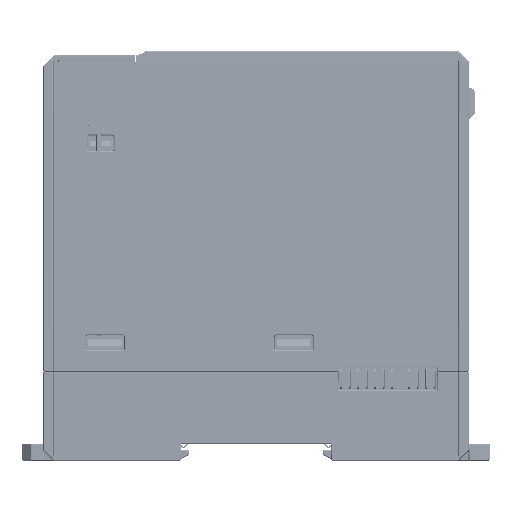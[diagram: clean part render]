
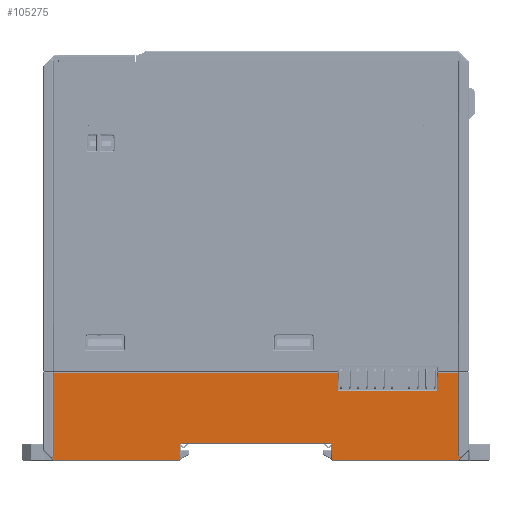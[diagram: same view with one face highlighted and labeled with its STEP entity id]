
A CAD part, left-side view. The second image highlights one B-rep face of the part: STEP entity #105275.
In plain terms, the highlighted planar face has unit normal (-1, 0, 0).
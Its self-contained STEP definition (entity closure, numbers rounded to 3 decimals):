
#84249=CARTESIAN_POINT('',(-11.5,48.45,
1.4));
#84264=DIRECTION('',(0.,0.017,-1.));
#84265=VECTOR('',#84264,4.301);
#84266=CARTESIAN_POINT('',(-11.5,42.751,
-13.797));
#84267=LINE('',#84266,#84265);
#84268=DIRECTION('',(0.,-0.707,0.707));
#84269=VECTOR('',#84268,1.49);
#84270=CARTESIAN_POINT('',(-11.5,48.45,
1.4));
#84271=LINE('',#84270,#84269);
#84272=DIRECTION('',(0.,-0.035,-0.999));
#84273=VECTOR('',#84272,3.52);
#84274=CARTESIAN_POINT('',(-11.5,17.983,
2.453));
#84275=LINE('',#84274,#84273);
#84276=CARTESIAN_POINT('',(-11.5,17.36,
-1.047));
#84277=DIRECTION('',(-1.,0.,0.));
#84278=DIRECTION('',(0.,0.999,-0.035));
#84279=AXIS2_PLACEMENT_3D('',#84276,#84277,#84278);
#84281=CARTESIAN_POINT('',(-11.5,-17.36,
-1.047));
#84282=DIRECTION('',(-1.,0.,0.));
#84283=DIRECTION('',(0.,0.,-1.));
#84284=AXIS2_PLACEMENT_3D('',#84281,#84282,#84283);
#84286=DIRECTION('',(0.,-0.035,0.999));
#84287=VECTOR('',#84286,3.52);
#84288=CARTESIAN_POINT('',(-11.5,-17.86,
-1.064));
#84289=LINE('',#84288,#84287);
#84290=DIRECTION('',(0.,-0.707,-0.707));
#84291=VECTOR('',#84290,1.49);
#84292=CARTESIAN_POINT('',(-11.5,-47.396,
2.453));
#84293=LINE('',#84292,#84291);
#84294=DIRECTION('',(0.,0.017,1.));
#84295=VECTOR('',#84294,4.301);
#84296=CARTESIAN_POINT('',(-11.5,19.174,
-18.097));
#84297=LINE('',#84296,#84295);
#84306=DIRECTION('',(0.,-1.,0.));
#84307=VECTOR('',#84306,23.502);
#84308=CARTESIAN_POINT('',(-11.5,42.751,
-13.797));
#84309=LINE('',#84308,#84307);
#93067=DIRECTION('',(0.,1.,0.));
#93068=VECTOR('',#93067,34.721);
#93069=CARTESIAN_POINT('',(-11.5,-17.36,
-1.547));
#93070=LINE('',#93069,#93068);
#93433=DIRECTION('',(0.,-1.,0.));
#93434=VECTOR('',#93433,67.624);
#93435=CARTESIAN_POINT('',(-11.5,19.174,
-18.097));
#93436=LINE('',#93435,#93434);
#93468=DIRECTION('',(0.,0.,1.));
#93469=VECTOR('',#93468,19.496);
#93470=CARTESIAN_POINT('',(-11.5,-48.45,
-18.097));
#93471=LINE('',#93470,#93469);
#93645=DIRECTION('',(0.,1.,0.));
#93646=VECTOR('',#93645,29.414);
#93647=CARTESIAN_POINT('',(-11.5,-47.396,
2.453));
#93648=LINE('',#93647,#93646);
#94778=DIRECTION('',(0.,1.,0.));
#94779=VECTOR('',#94778,29.414);
#94780=CARTESIAN_POINT('',(-11.5,17.983,
2.453));
#94781=LINE('',#94780,#94779);
#98585=DIRECTION('',(0.,0.,-1.));
#98586=VECTOR('',#98585,19.496);
#98587=CARTESIAN_POINT('',(-11.5,48.45,
1.4));
#98588=LINE('',#98587,#98586);
#98630=DIRECTION('',(0.,-1.,0.));
#98631=VECTOR('',#98630,5.624);
#98632=CARTESIAN_POINT('',(-11.5,48.45,
-18.097));
#98633=LINE('',#98632,#98631);
#100454=VERTEX_POINT('',#84249);
#100455=CARTESIAN_POINT('',(-11.5,47.396,
2.453));
#100456=VERTEX_POINT('',#100455);
#100457=CARTESIAN_POINT('',(-11.5,42.751,
-13.797));
#100458=CARTESIAN_POINT('',(-11.5,42.826,
-18.097));
#100459=VERTEX_POINT('',#100457);
#100460=VERTEX_POINT('',#100458);
#100461=CARTESIAN_POINT('',(-11.5,48.45,
-18.097));
#100462=VERTEX_POINT('',#100461);
#100463=CARTESIAN_POINT('',(-11.5,17.983,
2.453));
#100464=VERTEX_POINT('',#100463);
#100465=CARTESIAN_POINT('',(-11.5,17.86,
-1.064));
#100466=VERTEX_POINT('',#100465);
#100467=CARTESIAN_POINT('',(-11.5,17.36,
-1.547));
#100468=VERTEX_POINT('',#100467);
#100469=CARTESIAN_POINT('',(-11.5,-17.36,
-1.547));
#100470=VERTEX_POINT('',#100469);
#100471=CARTESIAN_POINT('',(-11.5,-17.86,
-1.064));
#100472=VERTEX_POINT('',#100471);
#100473=CARTESIAN_POINT('',(-11.5,-17.983,
2.453));
#100474=VERTEX_POINT('',#100473);
#100475=CARTESIAN_POINT('',(-11.5,-47.396,
2.453));
#100476=VERTEX_POINT('',#100475);
#100477=CARTESIAN_POINT('',(-11.5,-48.45,
1.4));
#100478=VERTEX_POINT('',#100477);
#100479=CARTESIAN_POINT('',(-11.5,-48.45,
-18.097));
#100480=VERTEX_POINT('',#100479);
#100481=CARTESIAN_POINT('',(-11.5,19.174,
-18.097));
#100482=VERTEX_POINT('',#100481);
#100483=CARTESIAN_POINT('',(-11.5,19.249,
-13.797));
#100484=VERTEX_POINT('',#100483);
#105237=CARTESIAN_POINT('',(-11.5,50.,
-135.497));
#105238=DIRECTION('',(1.,0.,0.));
#105239=DIRECTION('',(0.,0.,-1.));
#105240=AXIS2_PLACEMENT_3D('',#105237,#105238,#105239);
#105241=PLANE('',#105240);
#105243=ORIENTED_EDGE('',*,*,#105242,.T.);
#105245=ORIENTED_EDGE('',*,*,#105244,.F.);
#105247=ORIENTED_EDGE('',*,*,#105246,.F.);
#105248=ORIENTED_EDGE('',*,*,#105228,.T.);
#105250=ORIENTED_EDGE('',*,*,#105249,.F.);
#105252=ORIENTED_EDGE('',*,*,#105251,.T.);
#105254=ORIENTED_EDGE('',*,*,#105253,.T.);
#105256=ORIENTED_EDGE('',*,*,#105255,.F.);
#105258=ORIENTED_EDGE('',*,*,#105257,.T.);
#105260=ORIENTED_EDGE('',*,*,#105259,.T.);
#105262=ORIENTED_EDGE('',*,*,#105261,.F.);
#105264=ORIENTED_EDGE('',*,*,#105263,.T.);
#105266=ORIENTED_EDGE('',*,*,#105265,.F.);
#105268=ORIENTED_EDGE('',*,*,#105267,.F.);
#105270=ORIENTED_EDGE('',*,*,#105269,.T.);
#105272=ORIENTED_EDGE('',*,*,#105271,.F.);
#105273=EDGE_LOOP('',(#105243,#105245,#105247,#105248,#105250,#105252,#105254,
#105256,#105258,#105260,#105262,#105264,#105266,#105268,#105270,#105272));
#105274=FACE_OUTER_BOUND('',#105273,.F.);
#105275=ADVANCED_FACE('',(#105274),#105241,.F.);
#84280=CIRCLE('',#84279,0.5);
#84285=CIRCLE('',#84284,0.5);
#105228=EDGE_CURVE('',#100454,#100456,#84271,.T.);
#105242=EDGE_CURVE('',#100459,#100460,#84267,.T.);
#105244=EDGE_CURVE('',#100462,#100460,#98633,.T.);
#105246=EDGE_CURVE('',#100454,#100462,#98588,.T.);
#105249=EDGE_CURVE('',#100464,#100456,#94781,.T.);
#105251=EDGE_CURVE('',#100464,#100466,#84275,.T.);
#105253=EDGE_CURVE('',#100466,#100468,#84280,.T.);
#105255=EDGE_CURVE('',#100470,#100468,#93070,.T.);
#105257=EDGE_CURVE('',#100470,#100472,#84285,.T.);
#105259=EDGE_CURVE('',#100472,#100474,#84289,.T.);
#105261=EDGE_CURVE('',#100476,#100474,#93648,.T.);
#105263=EDGE_CURVE('',#100476,#100478,#84293,.T.);
#105265=EDGE_CURVE('',#100480,#100478,#93471,.T.);
#105267=EDGE_CURVE('',#100482,#100480,#93436,.T.);
#105269=EDGE_CURVE('',#100482,#100484,#84297,.T.);
#105271=EDGE_CURVE('',#100459,#100484,#84309,.T.);
